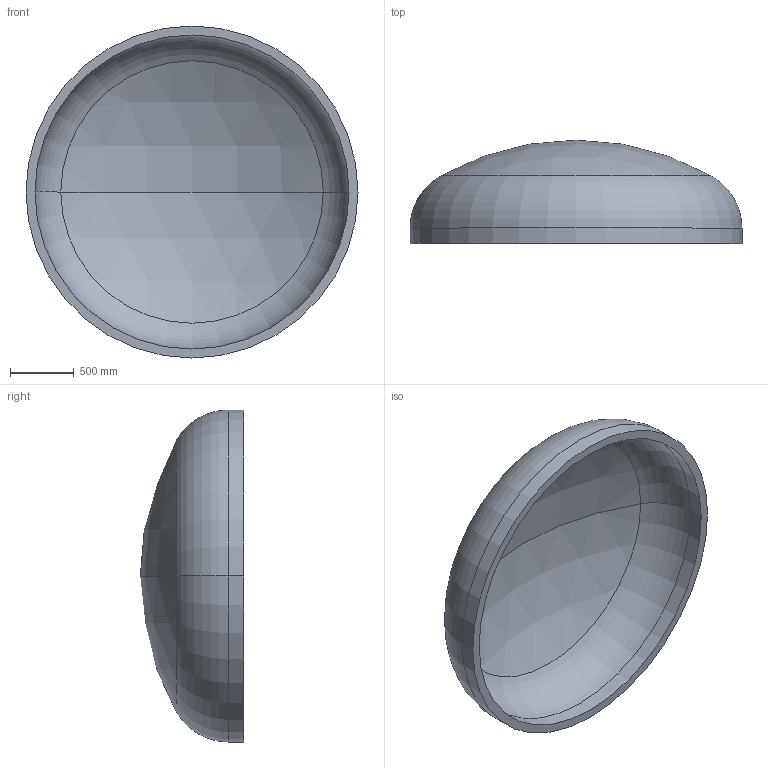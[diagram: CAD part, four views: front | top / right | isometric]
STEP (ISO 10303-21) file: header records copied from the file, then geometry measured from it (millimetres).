
FILE_DESCRIPTION (( 'STEP AP203' ), '1' );
FILE_NAME ('DIN 28013 Korbbogenform_-_Boden DIN 28013 - 2600 x 120 - I - s=70.step', '2016-07-01T16:22:03', ( '' ), ( '' ), 'SwSTEP 2.0', 'SolidWorks 2013', '' );
FILE_SCHEMA (( 'CONFIG_CONTROL_DESIGN' ));
Length unit declared in the file: millimetre
Products named in the file (1): DIN 28013 Korbbogenform_-_Boden DIN 28013 - 2600 x 120 - I - s=70
Bounding box: 2600 x 809.35 x 2600 mm (x, y, z)
Volume: 563563341.4 mm3; surface area: 16668443.2 mm2
Topology: 1 solids, 1 shells, 13 faces, 24 edges, 14 vertices
Faces by surface type: torus 4, cylinder 4, sphere 4, plane 1
Entity records: 407 total; most frequent: DIRECTION 72, CARTESIAN_POINT 52, ORIENTED_EDGE 48, AXIS2_PLACEMENT_3D 34, EDGE_CURVE 24, CIRCLE 20, EDGE_LOOP 14, VERTEX_POINT 14
